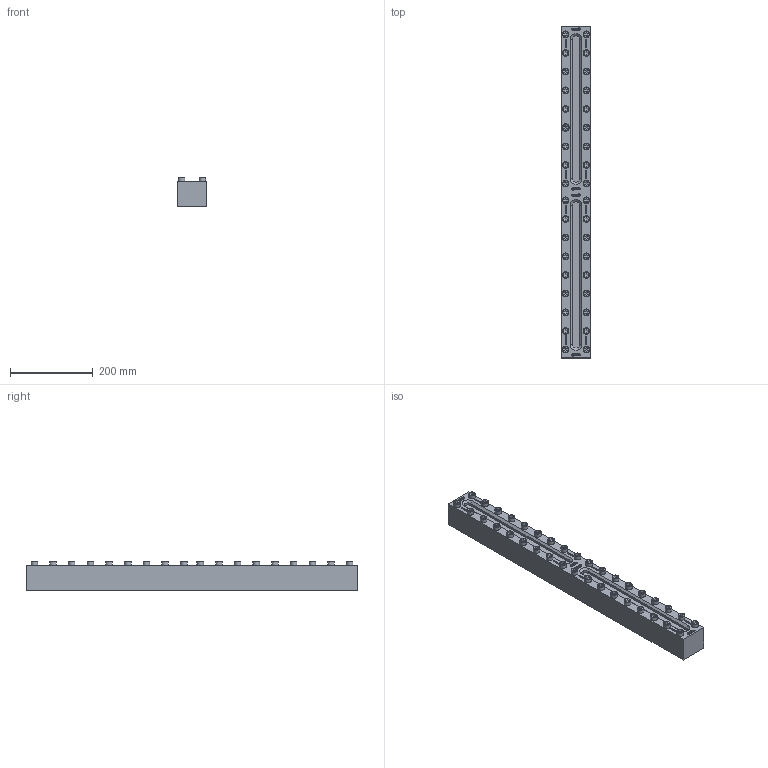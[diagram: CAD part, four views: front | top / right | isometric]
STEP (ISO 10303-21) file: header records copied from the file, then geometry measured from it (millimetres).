
FILE_DESCRIPTION(/* description */ (''),/* implementation_level */ '2;1');
FILE_NAME(/* name */ 'W:\Konstruktion_ACI\330\_Zeichnungen\STEP\ACI-330-800-40.stp',/* time_stamp */ '2022-03-01T17:27:02+01:00',/* author */ ('koslowksi'),/* organization */ (''),/* preprocessor_version */ 'ST-DEVELOPER v16.1',/* originating_system */ 'Autodesk Inventor 2016',/* authorisation */ '');
FILE_SCHEMA (('AUTOMOTIVE_DESIGN { 1 0 10303 214 3 1 1 }'));
Products named in the file (1): ACI-330-800-40.stp
Bounding box: 70 x 800 x 70.9 mm (x, y, z)
Volume: 3065959.4 mm3; surface area: 281940.3 mm2
Topology: 1 solids, 1 shells, 2588 faces, 6978 edges, 4637 vertices
Faces by surface type: plane 1863, bspline 604, cylinder 45, cone 40, torus 36
Full cylindrical faces by diameter (mm): 16 x36, 18 x1
Entity records: 84298 total; most frequent: CARTESIAN_POINT 22237, ORIENTED_EDGE 13596, DIRECTION 9474, EDGE_CURVE 6798, LINE 5244, VECTOR 5244, VERTEX_POINT 4566, EDGE_LOOP 2942
